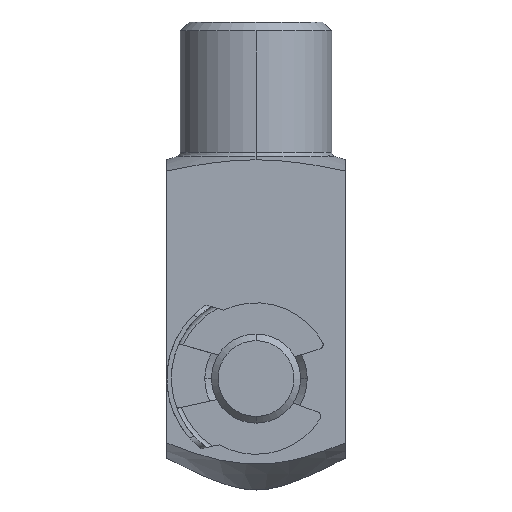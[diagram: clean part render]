
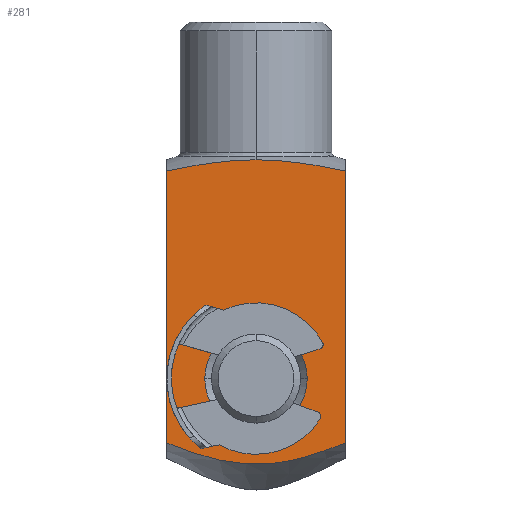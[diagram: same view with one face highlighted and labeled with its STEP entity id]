
A CAD part, left-side view. The second image highlights one B-rep face of the part: STEP entity #281.
In plain terms, the highlighted planar face has unit normal (-1, 0, 0).
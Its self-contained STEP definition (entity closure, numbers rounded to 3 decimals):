
#10 = CARTESIAN_POINT ( 'NONE',  ( -20., -8.5, 6.743 ) ) ;
#48 = CARTESIAN_POINT ( 'NONE',  ( -20., 0., 25. ) ) ;
#93 = CARTESIAN_POINT ( 'NONE',  ( -20., 0., 74.087 ) ) ;
#94 = DIRECTION ( 'NONE',  ( 0., -1., 0. ) ) ;
#216 = CARTESIAN_POINT ( 'NONE',  ( -20., 11.5, 25. ) ) ;
#281 = ADVANCED_FACE ( 'NONE', ( #3343, #1253 ), #4000, .T. ) ;
#297 = DIRECTION ( 'NONE',  ( -1., 0., 0. ) ) ;
#329 = EDGE_CURVE ( 'NONE', #1512, #2266, #1785, .T. ) ;
#350 = CARTESIAN_POINT ( 'NONE',  ( -20., 3.027, 5.902 ) ) ;
#369 = CARTESIAN_POINT ( 'NONE',  ( -20., -3.428, 5.903 ) ) ;
#371 = DIRECTION ( 'NONE',  ( 0., 0., -1. ) ) ;
#412 = CARTESIAN_POINT ( 'NONE',  ( -20., 20., 10.556 ) ) ;
#466 = ORIENTED_EDGE ( 'NONE', *, *, #3188, .T. ) ;
#471 = CARTESIAN_POINT ( 'NONE',  ( -20., -3.378, 74.021 ) ) ;
#516 = DIRECTION ( 'NONE',  ( 0., -1., 0. ) ) ;
#648 = VECTOR ( 'NONE', #371, 1000. ) ;
#657 = CARTESIAN_POINT ( 'NONE',  ( -20., 1.693, 74.087 ) ) ;
#663 = CARTESIAN_POINT ( 'NONE',  ( -20., -11.845, 7.641 ) ) ;
#711 = CARTESIAN_POINT ( 'NONE',  ( -20., -18.394, 9.901 ) ) ;
#804 = VERTEX_POINT ( 'NONE', #412 ) ;
#818 = ORIENTED_EDGE ( 'NONE', *, *, #3775, .F. ) ;
#1026 = CARTESIAN_POINT ( 'NONE',  ( -20., 18.399, 9.903 ) ) ;
#1027 = LINE ( 'NONE', #1424, #648 ) ;
#1052 = CARTESIAN_POINT ( 'NONE',  ( -20., 4.756, 6.093 ) ) ;
#1074 = EDGE_CURVE ( 'NONE', #804, #3868, #4069, .T. ) ;
#1141 = AXIS2_PLACEMENT_3D ( 'NONE', #1178, #1201, #516 ) ;
#1178 = CARTESIAN_POINT ( 'NONE',  ( -20., 0., 25. ) ) ;
#1201 = DIRECTION ( 'NONE',  ( 1., 0., 0. ) ) ;
#1253 = FACE_BOUND ( 'NONE', #2665, .T. ) ;
#1277 = CARTESIAN_POINT ( 'NONE',  ( -20., 20., -25. ) ) ;
#1424 = CARTESIAN_POINT ( 'NONE',  ( -20., -20., -25. ) ) ;
#1448 = CARTESIAN_POINT ( 'NONE',  ( -20., 0., 74.087 ) ) ;
#1470 = CARTESIAN_POINT ( 'NONE',  ( -20., -6.733, 73.77 ) ) ;
#1512 = VERTEX_POINT ( 'NONE', #2852 ) ;
#1623 = EDGE_CURVE ( 'NONE', #3647, #4175, #3786, .T. ) ;
#1682 = VECTOR ( 'NONE', #4269, 1000. ) ;
#1700 = DIRECTION ( 'NONE',  ( 0., 0., 1. ) ) ;
#1756 = CARTESIAN_POINT ( 'NONE',  ( -20., 20., 10.556 ) ) ;
#1778 = CARTESIAN_POINT ( 'NONE',  ( -20., 8.579, 6.762 ) ) ;
#1785 = B_SPLINE_CURVE_WITH_KNOTS ( 'NONE', 3,
 ( #4378, #3717, #2710, #2377, #3739, #4151, #657, #2099 ),
 .UNSPECIFIED., .F., .F.,
 ( 4, 2, 2, 4 ),
 ( -0.02, -0.01, -0.005, 0. ),
 .UNSPECIFIED. ) ;
#1802 = CARTESIAN_POINT ( 'NONE',  ( -20., -14.324, 8.424 ) ) ;
#1805 = CARTESIAN_POINT ( 'NONE',  ( -20., -8.403, 73.587 ) ) ;
#1949 = LINE ( 'NONE', #3292, #1682 ) ;
#1958 = CIRCLE ( 'NONE', #2503, 11.5 ) ;
#2090 = CARTESIAN_POINT ( 'NONE',  ( -20., -1.721, 5.773 ) ) ;
#2099 = CARTESIAN_POINT ( 'NONE',  ( -20., 0., 74.087 ) ) ;
#2256 = ORIENTED_EDGE ( 'NONE', *, *, #3643, .F. ) ;
#2266 = VERTEX_POINT ( 'NONE', #93 ) ;
#2353 = ORIENTED_EDGE ( 'NONE', *, *, #2444, .F. ) ;
#2377 = CARTESIAN_POINT ( 'NONE',  ( -20., 8.403, 73.587 ) ) ;
#2389 = CARTESIAN_POINT ( 'NONE',  ( -20., 16.789, 9.284 ) ) ;
#2426 = CARTESIAN_POINT ( 'NONE',  ( -20., -16.777, 9.279 ) ) ;
#2444 = EDGE_CURVE ( 'NONE', #804, #1512, #1949, .T. ) ;
#2449 = CARTESIAN_POINT ( 'NONE',  ( -20., 3.462, 5.943 ) ) ;
#2469 = CARTESIAN_POINT ( 'NONE',  ( -20., -1.693, 74.087 ) ) ;
#2503 = AXIS2_PLACEMENT_3D ( 'NONE', #48, #3157, #94 ) ;
#2514 = CARTESIAN_POINT ( 'NONE',  ( -20., -16.703, 72.275 ) ) ;
#2665 = EDGE_LOOP ( 'NONE', ( #3937, #466 ) ) ;
#2673 = B_SPLINE_CURVE_WITH_KNOTS ( 'NONE', 3,
 ( #1448, #2469, #471, #1470, #1805, #2848, #2514, #3885 ),
 .UNSPECIFIED., .F., .F.,
 ( 4, 2, 2, 4 ),
 ( 0., 0.005, 0.01, 0.02 ),
 .UNSPECIFIED. ) ;
#2710 = CARTESIAN_POINT ( 'NONE',  ( -20., 13.396, 72.904 ) ) ;
#2848 = CARTESIAN_POINT ( 'NONE',  ( -20., -13.396, 72.904 ) ) ;
#2852 = CARTESIAN_POINT ( 'NONE',  ( -20., 20., 71.566 ) ) ;
#2935 = CARTESIAN_POINT ( 'NONE',  ( -20., -20., 71.566 ) ) ;
#3074 = VERTEX_POINT ( 'NONE', #2935 ) ;
#3103 = CARTESIAN_POINT ( 'NONE',  ( -20., 11.9, 7.636 ) ) ;
#3123 = CARTESIAN_POINT ( 'NONE',  ( -20., -20., 10.556 ) ) ;
#3157 = DIRECTION ( 'NONE',  ( 1., 0., 0. ) ) ;
#3166 = CARTESIAN_POINT ( 'NONE',  ( -20., -6.817, 6.389 ) ) ;
#3188 = EDGE_CURVE ( 'NONE', #4175, #3647, #1958, .T. ) ;
#3292 = CARTESIAN_POINT ( 'NONE',  ( -20., 20., -25. ) ) ;
#3343 = FACE_OUTER_BOUND ( 'NONE', #4204, .T. ) ;
#3443 = CARTESIAN_POINT ( 'NONE',  ( -20., 0.861, 5.774 ) ) ;
#3466 = CARTESIAN_POINT ( 'NONE',  ( -20., -13.501, 8.152 ) ) ;
#3486 = CARTESIAN_POINT ( 'NONE',  ( -20., 13.539, 8.15 ) ) ;
#3628 = AXIS2_PLACEMENT_3D ( 'NONE', #1277, #297, #1700 ) ;
#3643 = EDGE_CURVE ( 'NONE', #3074, #3868, #1027, .T. ) ;
#3647 = VERTEX_POINT ( 'NONE', #3771 ) ;
#3717 = CARTESIAN_POINT ( 'NONE',  ( -20., 16.703, 72.275 ) ) ;
#3739 = CARTESIAN_POINT ( 'NONE',  ( -20., 6.733, 73.77 ) ) ;
#3748 = CARTESIAN_POINT ( 'NONE',  ( -20., -11.01, 7.401 ) ) ;
#3770 = CARTESIAN_POINT ( 'NONE',  ( -20., 4.326, 6.038 ) ) ;
#3771 = CARTESIAN_POINT ( 'NONE',  ( -20., -11.5, 25. ) ) ;
#3775 = EDGE_CURVE ( 'NONE', #2266, #3074, #2673, .T. ) ;
#3786 = CIRCLE ( 'NONE', #1141, 11.5 ) ;
#3812 = CARTESIAN_POINT ( 'NONE',  ( -20., 1.725, 5.806 ) ) ;
#3868 = VERTEX_POINT ( 'NONE', #4301 ) ;
#3885 = CARTESIAN_POINT ( 'NONE',  ( -20., -20., 71.566 ) ) ;
#3937 = ORIENTED_EDGE ( 'NONE', *, *, #1623, .T. ) ;
#4000 = PLANE ( 'NONE',  #3628 ) ;
#4013 = ORIENTED_EDGE ( 'NONE', *, *, #1074, .T. ) ;
#4069 = B_SPLINE_CURVE_WITH_KNOTS ( 'NONE', 3,
 ( #1756, #1026, #2389, #3486, #3103, #1778, #4116, #1052, #3770, #2449, #350, #3812, #3443, #2090, #369, #3166, #10, #3748, #663, #3466, #1802, #2426, #711, #3123 ),
 .UNSPECIFIED., .F., .F.,
 ( 4, 2, 2, 2, 2, 2, 2, 2, 2, 2, 2, 4 ),
 ( 0., 0.005, 0.01, 0.015, 0.017, 0.018, 0.021, 0.026, 0.031, 0.033, 0.036, 0.041 ),
 .UNSPECIFIED. ) ;
#4116 = CARTESIAN_POINT ( 'NONE',  ( -20., 6.897, 6.403 ) ) ;
#4151 = CARTESIAN_POINT ( 'NONE',  ( -20., 3.378, 74.021 ) ) ;
#4175 = VERTEX_POINT ( 'NONE', #216 ) ;
#4204 = EDGE_LOOP ( 'NONE', ( #4290, #2353, #4013, #2256, #818 ) ) ;
#4269 = DIRECTION ( 'NONE',  ( 0., 0., 1. ) ) ;
#4290 = ORIENTED_EDGE ( 'NONE', *, *, #329, .F. ) ;
#4301 = CARTESIAN_POINT ( 'NONE',  ( -20., -20., 10.556 ) ) ;
#4378 = CARTESIAN_POINT ( 'NONE',  ( -20., 20., 71.566 ) ) ;
